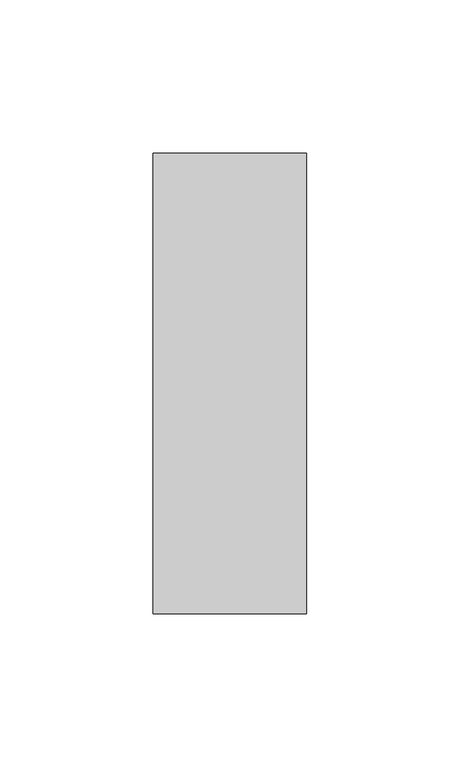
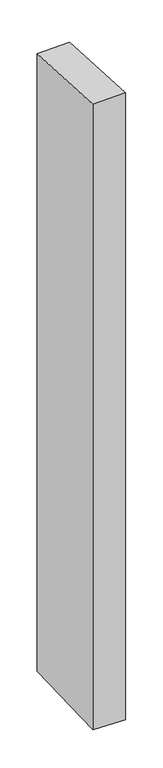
"""IFC4 building model written with IfcOpenShell, lengths in millimetres: member geometry, Прямоугольный импост : 50 x 150 мм."""

from ifc_helpers import new_model, si_unit, origin, place, context, project, spatial, faceted_brep, source, transform, mapped, element, save


def member_060271d3(model_context):
    return source(origin(), model_context, "Body", "Brep", [
        faceted_brep([(-25.0, 75.0, -4.5706548), (25.0, 75.0, -3.4875003), (25.0, 75.0, -1014.9078084), (-25.0, 75.0, -1013.6793273), (-25.0, -75.0, 3.4875003), (-25.0, -75.0, -1018.9369013), (25.0, -75.0, 4.5706548), (25.0, -75.0, -1020.1653824)], [[[0, 1, 2, 3]], [[4, 0, 3, 5]], [[6, 4, 5, 7]], [[1, 6, 7, 2]], [[1, 0, 4, 6]], [[2, 7, 5, 3]]]),
    ])


if __name__ == "__main__":
    model = new_model("IFC4")
    model_context = context("Model", 3, world=origin())
    ifc_project = project(units=[si_unit("LENGTHUNIT", "METRE", prefix="MILLI")], contexts=[model_context])
    site = spatial("IfcSite", under=ifc_project)
    building = spatial("IfcBuilding", under=site)
    placement = place(None, origin())
    member_shape = member_060271d3(model_context)
    element("IfcMember", 1, ObjectType="Прямоугольный импост : 50 x 150 мм", at=placement, inside=building, context=model_context, shape_type="MappedRepresentation", body=[
        mapped(member_shape, transform((0.0, 0.0, 0.0), x_axis=(1.0, 0.0, 0.0), y_axis=(0.0, 1.0, 0.0), z_axis=(0.0, 0.0, 1.0))),
    ])
    save(model, "model.ifc")
